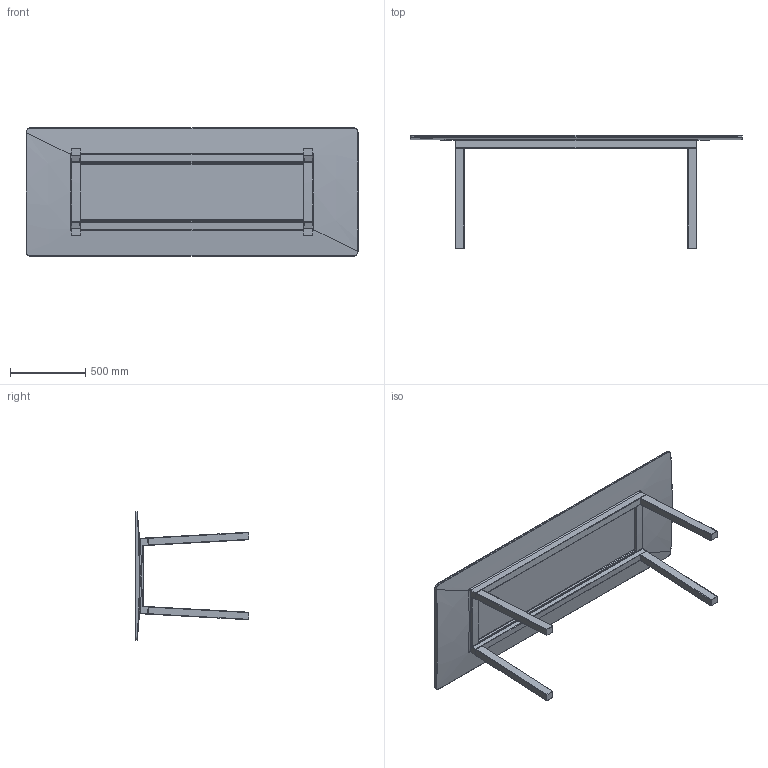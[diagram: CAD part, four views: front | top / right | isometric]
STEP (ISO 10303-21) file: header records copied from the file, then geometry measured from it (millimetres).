
FILE_DESCRIPTION (( 'STEP AP203' ), '1' );
FILE_NAME ('NERVOSA DINING TABLE.STEP', '2023-04-19T08:48:54', ( '' ), ( '' ), 'SwSTEP 2.0', 'SolidWorks 2023', '' );
FILE_SCHEMA (( 'CONFIG_CONTROL_DESIGN' ));
Length unit declared in the file: millimetre
Products named in the file (2): NERVOSA DINING TABLE; Group1^NERVOSA DINING TABLE
Assembly tree (1 placements, depth 2):
  NERVOSA DINING TABLE
    Group1^NERVOSA DINING TABLE
Bounding box: 2200 x 750 x 850 mm (x, y, z)
Volume: 68515518.7 mm3; surface area: 4762965.5 mm2
Topology: 1 solids, 1 shells, 213 faces, 490 edges, 280 vertices
Faces by surface type: cylinder 88, bspline 49, plane 38, torus 38
Entity records: 10910 total; most frequent: CARTESIAN_POINT 6224, ORIENTED_EDGE 980, DIRECTION 933, EDGE_CURVE 490, AXIS2_PLACEMENT_3D 383, VERTEX_POINT 280, CIRCLE 215, EDGE_LOOP 214
